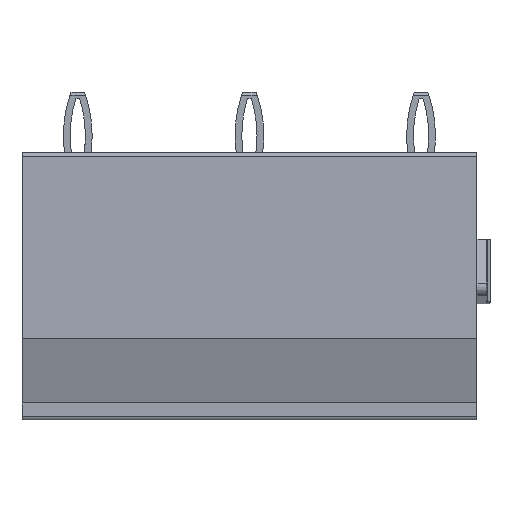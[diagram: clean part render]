
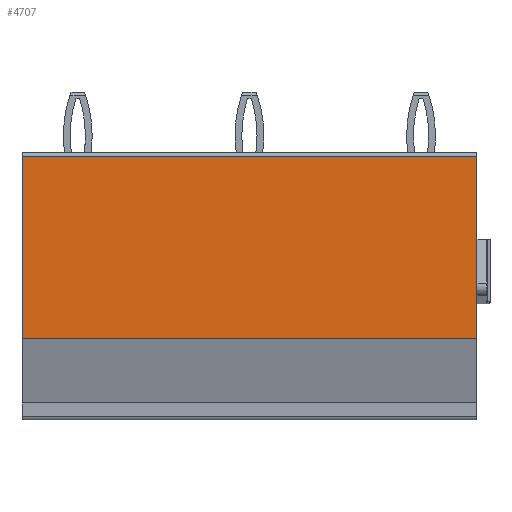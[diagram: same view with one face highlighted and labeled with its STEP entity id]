
A CAD part, left-side view. The second image highlights one B-rep face of the part: STEP entity #4707.
In plain terms, the highlighted planar face has unit normal (-1, 0, 0).
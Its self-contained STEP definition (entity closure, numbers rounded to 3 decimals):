
#1=DIRECTION('',(0.,0.,-1.));
#2=VECTOR('',#1,10.8);
#3=CARTESIAN_POINT('',(-1.2,-20.32,15.6));
#4=LINE('',#3,#2);
#5=DIRECTION('',(0.,-1.,0.));
#6=VECTOR('',#5,26.9);
#7=CARTESIAN_POINT('',(-1.2,6.58,4.8));
#8=LINE('',#7,#6);
#241=DIRECTION('',(0.,1.,0.));
#242=VECTOR('',#241,26.9);
#243=CARTESIAN_POINT('',(-1.2,-20.32,15.6));
#244=LINE('',#243,#242);
#249=DIRECTION('',(0.,0.,-1.));
#250=VECTOR('',#249,10.8);
#251=CARTESIAN_POINT('',(-1.2,6.58,15.6));
#252=LINE('',#251,#250);
#3604=CARTESIAN_POINT('',(-1.2,-20.32,15.6));
#3605=CARTESIAN_POINT('',(-1.2,6.58,15.6));
#3606=VERTEX_POINT('',#3604);
#3607=VERTEX_POINT('',#3605);
#3608=CARTESIAN_POINT('',(-1.2,-20.32,4.8));
#3609=VERTEX_POINT('',#3608);
#4513=CARTESIAN_POINT('',(-1.2,6.58,4.8));
#4514=VERTEX_POINT('',#4513);
#4692=CARTESIAN_POINT('',(-1.2,0.,4.8));
#4693=DIRECTION('',(-1.,0.,0.));
#4694=DIRECTION('',(0.,0.,1.));
#4695=AXIS2_PLACEMENT_3D('',#4692,#4693,#4694);
#4696=PLANE('',#4695);
#4698=ORIENTED_EDGE('',*,*,#4697,.F.);
#4700=ORIENTED_EDGE('',*,*,#4699,.F.);
#4702=ORIENTED_EDGE('',*,*,#4701,.F.);
#4704=ORIENTED_EDGE('',*,*,#4703,.T.);
#4705=EDGE_LOOP('',(#4698,#4700,#4702,#4704));
#4706=FACE_OUTER_BOUND('',#4705,.F.);
#4707=ADVANCED_FACE('',(#4706),#4696,.T.);
#4697=EDGE_CURVE('',#4514,#3609,#8,.T.);
#4699=EDGE_CURVE('',#3607,#4514,#252,.T.);
#4701=EDGE_CURVE('',#3606,#3607,#244,.T.);
#4703=EDGE_CURVE('',#3606,#3609,#4,.T.);
